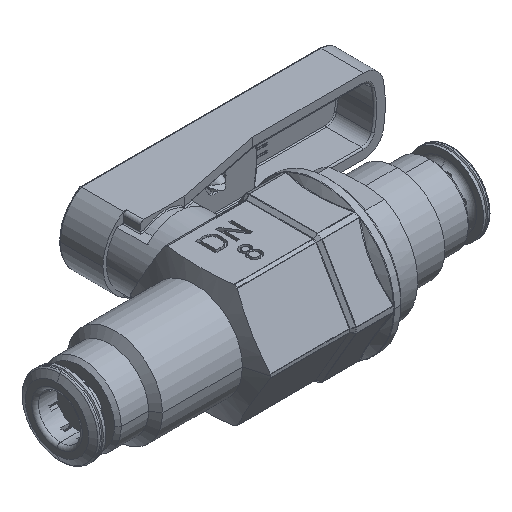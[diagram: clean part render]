
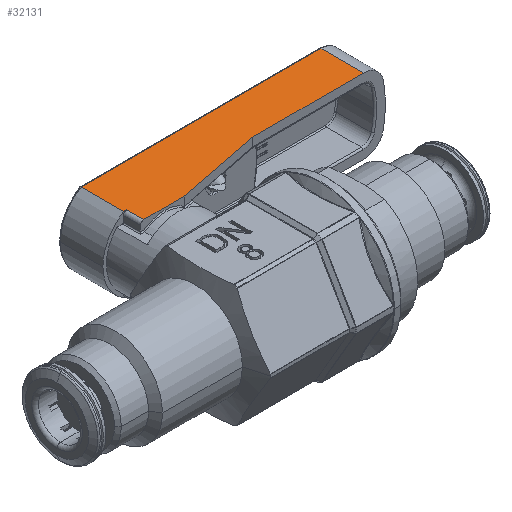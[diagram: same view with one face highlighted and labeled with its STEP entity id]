
A CAD part, isometric view. The second image highlights one B-rep face of the part: STEP entity #32131.
In plain terms, the highlighted planar face has unit normal (0, 0, 1).
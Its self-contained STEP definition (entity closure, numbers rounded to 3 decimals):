
#302 = ORIENTED_EDGE ( 'NONE', *, *, #10634, .T. ) ;
#976 = DIRECTION ( 'NONE',  ( 1., 0., 0. ) ) ;
#2033 = CARTESIAN_POINT ( 'NONE',  ( -3., 16., 5.5 ) ) ;
#2115 = DIRECTION ( 'NONE',  ( -1., 0., 0. ) ) ;
#2611 = LINE ( 'NONE', #17969, #12810 ) ;
#2816 = CARTESIAN_POINT ( 'NONE',  ( -3.464, 22.25, 5.5 ) ) ;
#4913 = FACE_OUTER_BOUND ( 'NONE', #16933, .T. ) ;
#6022 = EDGE_CURVE ( 'NONE', #28996, #35541, #2611, .T. ) ;
#6266 = VECTOR ( 'NONE', #9748, 1000. ) ;
#6445 = VECTOR ( 'NONE', #29115, 1000. ) ;
#9001 = CARTESIAN_POINT ( 'NONE',  ( 3., 13.5, 5.5 ) ) ;
#9078 = DIRECTION ( 'NONE',  ( 0.981, 0.196, 0. ) ) ;
#9114 = ORIENTED_EDGE ( 'NONE', *, *, #24763, .T. ) ;
#9748 = DIRECTION ( 'NONE',  ( 0., 1., 0. ) ) ;
#10113 = ORIENTED_EDGE ( 'NONE', *, *, #29261, .T. ) ;
#10634 = EDGE_CURVE ( 'NONE', #17313, #14587, #19715, .T. ) ;
#11003 = VECTOR ( 'NONE', #33242, 1000. ) ;
#11913 = VERTEX_POINT ( 'NONE', #13236 ) ;
#12810 = VECTOR ( 'NONE', #2115, 1000. ) ;
#13236 = CARTESIAN_POINT ( 'NONE',  ( 31.803, 16., 5.5 ) ) ;
#13485 = CARTESIAN_POINT ( 'NONE',  ( -3.464, 13.5, 5.5 ) ) ;
#13607 = PLANE ( 'NONE',  #27271 ) ;
#14438 = VECTOR ( 'NONE', #976, 1000. ) ;
#14587 = VERTEX_POINT ( 'NONE', #9001 ) ;
#15410 = CARTESIAN_POINT ( 'NONE',  ( -3.464, 13.5, 5.5 ) ) ;
#16541 = CARTESIAN_POINT ( 'NONE',  ( 35., 16., 5.5 ) ) ;
#16561 = DIRECTION ( 'NONE',  ( 0., 0., 1. ) ) ;
#16889 = VERTEX_POINT ( 'NONE', #20549 ) ;
#16933 = EDGE_LOOP ( 'NONE', ( #10113, #33833, #32165, #24229, #27183, #302, #9114, #32006 ) ) ;
#17313 = VERTEX_POINT ( 'NONE', #31512 ) ;
#17969 = CARTESIAN_POINT ( 'NONE',  ( -3.464, 22.25, 5.5 ) ) ;
#19715 = LINE ( 'NONE', #35610, #39599 ) ;
#20549 = CARTESIAN_POINT ( 'NONE',  ( 15.5, 16., 5.5 ) ) ;
#22145 = VECTOR ( 'NONE', #29390, 1000. ) ;
#23669 = DIRECTION ( 'NONE',  ( 1., 0., 0. ) ) ;
#24229 = ORIENTED_EDGE ( 'NONE', *, *, #28505, .T. ) ;
#24299 = CARTESIAN_POINT ( 'NONE',  ( -3.5, 16., 5.5 ) ) ;
#24484 = VERTEX_POINT ( 'NONE', #35910 ) ;
#24763 = EDGE_CURVE ( 'NONE', #14587, #16889, #39945, .T. ) ;
#27183 = ORIENTED_EDGE ( 'NONE', *, *, #30578, .T. ) ;
#27262 = LINE ( 'NONE', #28984, #6445 ) ;
#27271 = AXIS2_PLACEMENT_3D ( 'NONE', #13485, #16561, #38277 ) ;
#28505 = EDGE_CURVE ( 'NONE', #24484, #29332, #39648, .T. ) ;
#28742 = EDGE_CURVE ( 'NONE', #16889, #11913, #29419, .T. ) ;
#28984 = CARTESIAN_POINT ( 'NONE',  ( -3., 13.5, 5.5 ) ) ;
#28996 = VERTEX_POINT ( 'NONE', #36386 ) ;
#29115 = DIRECTION ( 'NONE',  ( 0., -1., 0. ) ) ;
#29261 = EDGE_CURVE ( 'NONE', #11913, #28996, #30378, .T. ) ;
#29266 = CARTESIAN_POINT ( 'NONE',  ( 31.803, 13.5, 5.5 ) ) ;
#29332 = VERTEX_POINT ( 'NONE', #2033 ) ;
#29390 = DIRECTION ( 'NONE',  ( 0., 1., 0. ) ) ;
#29419 = LINE ( 'NONE', #16541, #14438 ) ;
#30234 = VECTOR ( 'NONE', #9078, 1000. ) ;
#30378 = LINE ( 'NONE', #29266, #22145 ) ;
#30578 = EDGE_CURVE ( 'NONE', #29332, #17313, #27262, .T. ) ;
#31512 = CARTESIAN_POINT ( 'NONE',  ( -3., 13.5, 5.5 ) ) ;
#32006 = ORIENTED_EDGE ( 'NONE', *, *, #28742, .T. ) ;
#32131 = ADVANCED_FACE ( 'NONE', ( #4913 ), #13607, .T. ) ;
#32165 = ORIENTED_EDGE ( 'NONE', *, *, #35595, .F. ) ;
#33242 = DIRECTION ( 'NONE',  ( 1., 0., 0. ) ) ;
#33833 = ORIENTED_EDGE ( 'NONE', *, *, #6022, .T. ) ;
#35541 = VERTEX_POINT ( 'NONE', #2816 ) ;
#35595 = EDGE_CURVE ( 'NONE', #24484, #35541, #39229, .T. ) ;
#35610 = CARTESIAN_POINT ( 'NONE',  ( -3.464, 13.5, 5.5 ) ) ;
#35910 = CARTESIAN_POINT ( 'NONE',  ( -3.464, 16., 5.5 ) ) ;
#36386 = CARTESIAN_POINT ( 'NONE',  ( 31.803, 22.25, 5.5 ) ) ;
#36846 = CARTESIAN_POINT ( 'NONE',  ( 15.5, 16., 5.5 ) ) ;
#38277 = DIRECTION ( 'NONE',  ( 1., 0., 0. ) ) ;
#39229 = LINE ( 'NONE', #15410, #6266 ) ;
#39599 = VECTOR ( 'NONE', #23669, 1000. ) ;
#39648 = LINE ( 'NONE', #24299, #11003 ) ;
#39945 = LINE ( 'NONE', #36846, #30234 ) ;
